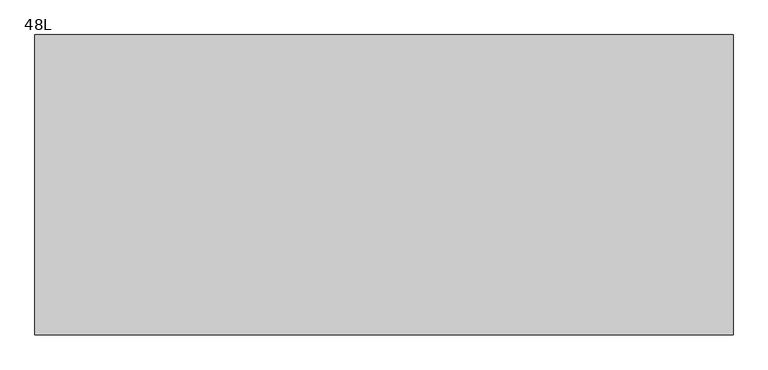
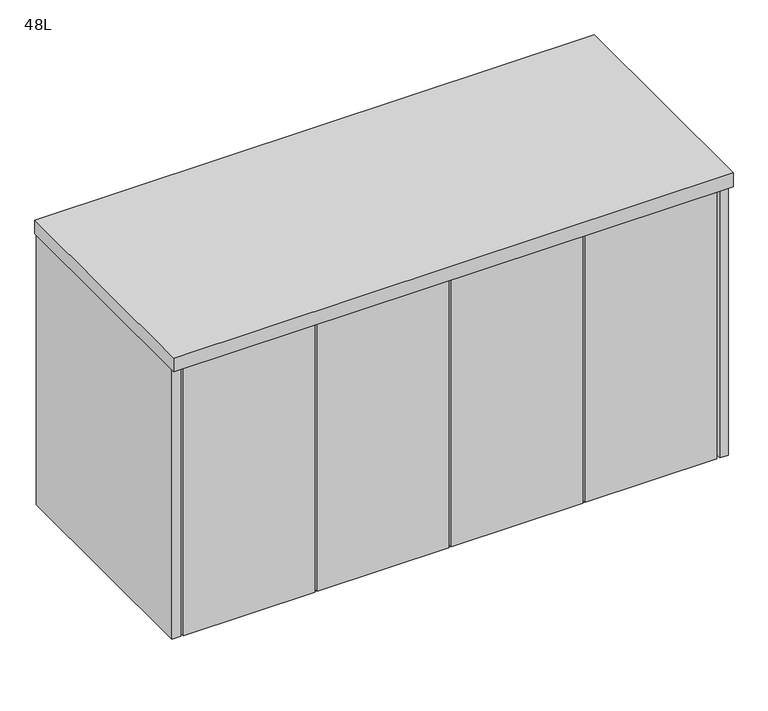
"""IFC4 building model written with IfcOpenShell, lengths in millimetres: furniture geometry, Steelcase Coalesse - Exponents Version 1 - Storage - Credenza : 48L."""

from ifc_helpers import new_model, si_unit, frame, origin, origin_with_axes, place, context, project, spatial, polyline, outline, extrude, source, transform, mapped, element, save


def furniture_48l_f599eb9c(model_context):
    return source(origin(), model_context, "Body", "SweptSolid", [
        extrude(outline(polyline([(315.849, 31.7499879), (315.849, 12.6999879), (28.575, 12.6999879), (28.575, 31.7499879), (315.849, 31.7499879)])), frame((0.0, 0.0, 76.2), z_axis=(0.0, 0.0, 1.0), x_axis=(1.0, 0.0, 0.0)), (0.0, 0.0, 1.0), 622.3000242),
        extrude(outline(polyline([(609.4729758, 31.7499879), (609.4729758, 12.6999879), (322.1989758, 12.6999879), (322.1989758, 31.7499879), (609.4729758, 31.7499879)])), frame((0.0, 0.0, 76.2), z_axis=(0.0, 0.0, 1.0), x_axis=(1.0, 0.0, 0.0)), (0.0, 0.0, 1.0), 622.3000242),
        extrude(outline(polyline([(903.0969516, 31.7499879), (903.0969516, 12.6999879), (615.8229516, 12.6999879), (615.8229516, 31.7499879), (903.0969516, 31.7499879)])), frame((0.0, 0.0, 76.2), z_axis=(0.0, 0.0, 1.0), x_axis=(1.0, 0.0, 0.0)), (0.0, 0.0, 1.0), 622.3000242),
        extrude(outline(polyline([(1196.7209273, 31.7499879), (1196.7209273, 12.6999879), (909.4469273, 12.6999879), (909.4469273, 31.7499879), (1196.7209273, 31.7499879)])), frame((0.0, 0.0, 76.2), z_axis=(0.0, 0.0, 1.0), x_axis=(1.0, 0.0, 0.0)), (0.0, 0.0, 1.0), 622.3000242),
        extrude(outline(polyline([(1203.3250484, 450.8499879), (1203.3250484, 38.1), (22.2249992, 38.1), (22.2249992, 450.8499879), (1203.3250484, 450.8499879)])), frame((0.0, 0.0, 76.2), z_axis=(0.0, 0.0, 1.0), x_axis=(1.0, 0.0, 0.0)), (0.0, 0.0, 1.0), 628.65),
        extrude(outline(polyline([(1222.3750476, 527.0499879), (1222.3750476, 12.6999879), (1203.3250484, 12.6999879), (1203.3250484, 527.0499879), (1222.3750476, 527.0499879)])), frame((0.0, 0.0, 76.2), z_axis=(0.0, 0.0, 1.0), x_axis=(1.0, 0.0, 0.0)), (0.0, 0.0, 1.0), 628.65),
        extrude(outline(polyline([(22.2249992, 527.0499879), (22.2249992, 12.6999879), (3.1750001, 12.6999879), (3.1750001, 527.0499879), (22.2249992, 527.0499879)])), frame((0.0, 0.0, 76.2), z_axis=(0.0, 0.0, 1.0), x_axis=(1.0, 0.0, 0.0)), (0.0, 0.0, 1.0), 628.65),
        extrude(outline(polyline([(1225.55, 527.0499879), (1225.55, 0.0), (0.0, 0.0), (0.0, 527.0499879), (1225.55, 527.0499879)])), frame((0.0, 0.0, 704.85), z_axis=(0.0, 0.0, 1.0), x_axis=(1.0, 0.0, 0.0)), (0.0, 0.0, 1.0), 31.7500242),
        extrude(outline(polyline([(1130.3, 527.0499879), (1130.3, 107.9499879), (95.25, 107.9499879), (95.25, 527.0499879), (1130.3, 527.0499879)])), origin_with_axes(), (0.0, 0.0, 1.0), 76.2),
    ])


if __name__ == "__main__":
    model = new_model("IFC4")
    model_context = context("Model", 3, world=origin())
    ifc_project = project(units=[si_unit("LENGTHUNIT", "METRE", prefix="MILLI")], contexts=[model_context])
    site = spatial("IfcSite", under=ifc_project)
    building = spatial("IfcBuilding", under=site)
    placement = place(None, origin())
    furniture_48l_shape = furniture_48l_f599eb9c(model_context)
    element("IfcFurniture", 1, ObjectType="Steelcase Coalesse - Exponents Version 1 - Storage - Credenza : 48L", at=placement, inside=building, context=model_context, shape_type="MappedRepresentation", body=[
        mapped(furniture_48l_shape, transform((0.0, 0.0, 0.0), x_axis=(1.0, 0.0, 0.0), y_axis=(0.0, 1.0, 0.0), z_axis=(0.0, 0.0, 1.0))),
    ])
    save(model, "model.ifc")
